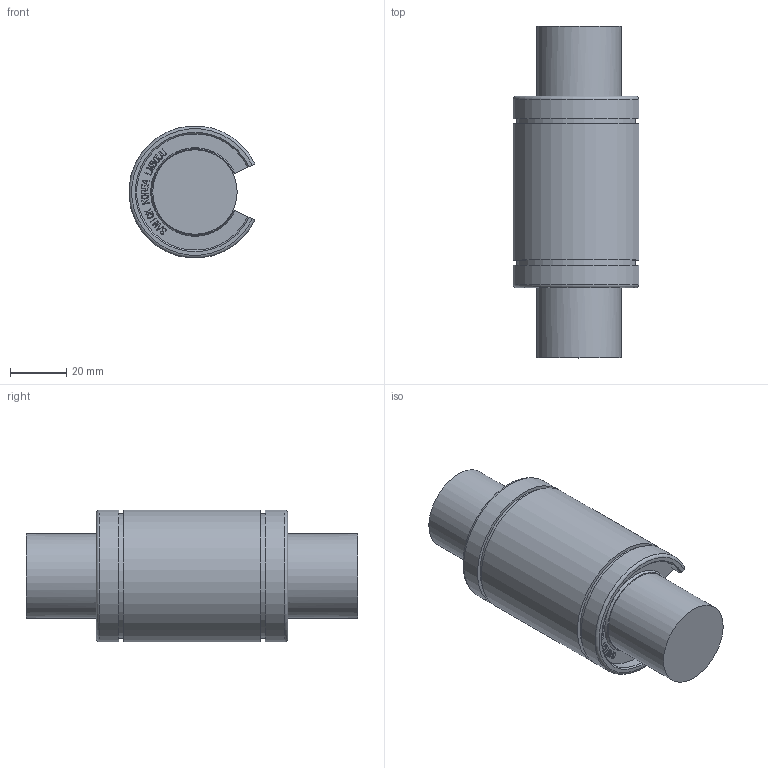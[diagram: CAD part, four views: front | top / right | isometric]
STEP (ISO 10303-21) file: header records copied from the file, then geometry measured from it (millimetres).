
FILE_DESCRIPTION(/* description */ (''),/* implementation_level */ '2;1');
FILE_NAME(/* name */ 'W:\(01) 2024년 홈페이지 CAD파일 최신화\LME_OP\IPT\LME30UUOP.stp',/* time_stamp */ '2025-01-25T10:18:40+09:00',/* author */ ('서우현'),/* organization */ (''),/* preprocessor_version */ 'ST-DEVELOPER v17.2',/* originating_system */ 'Autodesk Inventor 2019',/* authorisation */ '');
FILE_SCHEMA (('AUTOMOTIVE_DESIGN { 1 0 10303 214 3 1 1 }'));
Length unit declared in the file: millimetre
Products named in the file (1): LM5
Bounding box: 44.71 x 118 x 46.82 mm (x, y, z)
Volume: 138866.2 mm3; surface area: 20371.4 mm2
Topology: 1 solids, 1 shells, 852 faces, 2418 edges, 1612 vertices
Faces by surface type: bspline 616, plane 222, cylinder 8, cone 4, torus 2
Full cylindrical faces by diameter (mm): 30 x1
Entity records: 29190 total; most frequent: CARTESIAN_POINT 10427, ORIENTED_EDGE 4836, EDGE_CURVE 2418, DIRECTION 1692, VERTEX_POINT 1612, B_SPLINE_CURVE_WITH_KNOTS 1232, LINE 1154, VECTOR 1154
